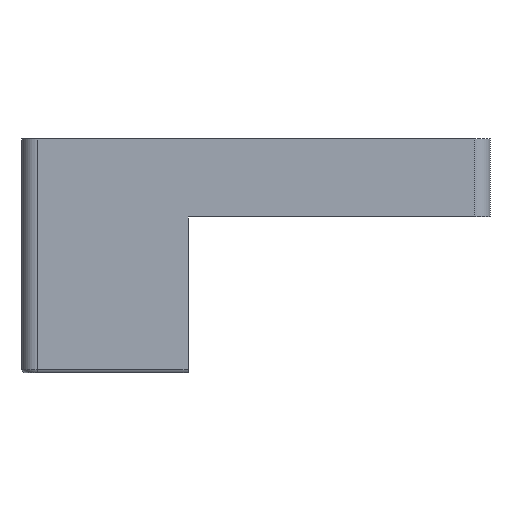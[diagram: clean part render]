
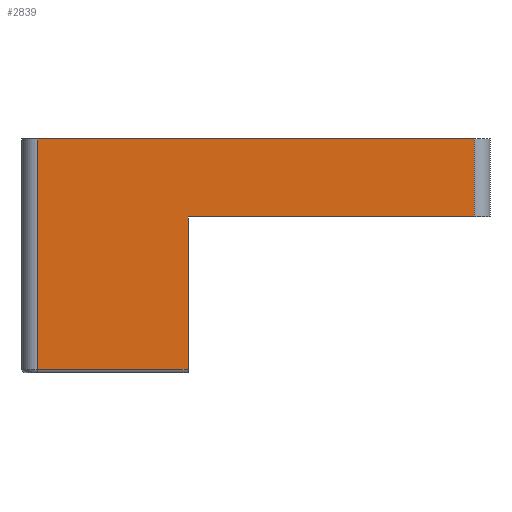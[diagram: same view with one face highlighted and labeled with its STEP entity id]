
A CAD part, front view. The second image highlights one B-rep face of the part: STEP entity #2839.
In plain terms, the highlighted planar face has unit normal (0, -1, 0).
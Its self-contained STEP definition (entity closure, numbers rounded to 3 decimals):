
#42=PLANE('',#3023);
#173=FACE_OUTER_BOUND('',#322,.T.);
#322=EDGE_LOOP('',(#2037,#2038,#2039,#2040,#2041,#2042));
#500=LINE('',#4064,#859);
#508=LINE('',#4087,#867);
#509=LINE('',#4091,#868);
#510=LINE('',#4093,#869);
#511=LINE('',#4095,#870);
#512=LINE('',#4096,#871);
#859=VECTOR('',#3274,10.);
#867=VECTOR('',#3298,10.);
#868=VECTOR('',#3303,10.);
#869=VECTOR('',#3304,10.);
#870=VECTOR('',#3305,10.);
#871=VECTOR('',#3306,10.);
#1281=VERTEX_POINT('',#4061);
#1282=VERTEX_POINT('',#4063);
#1289=VERTEX_POINT('',#4086);
#1290=VERTEX_POINT('',#4090);
#1291=VERTEX_POINT('',#4092);
#1292=VERTEX_POINT('',#4094);
#1572=EDGE_CURVE('',#1281,#1282,#500,.T.);
#1584=EDGE_CURVE('',#1282,#1289,#508,.T.);
#1586=EDGE_CURVE('',#1290,#1281,#509,.T.);
#1587=EDGE_CURVE('',#1291,#1290,#510,.T.);
#1588=EDGE_CURVE('',#1292,#1291,#511,.T.);
#1589=EDGE_CURVE('',#1289,#1292,#512,.T.);
#2037=ORIENTED_EDGE('',*,*,#1572,.F.);
#2038=ORIENTED_EDGE('',*,*,#1586,.F.);
#2039=ORIENTED_EDGE('',*,*,#1587,.F.);
#2040=ORIENTED_EDGE('',*,*,#1588,.F.);
#2041=ORIENTED_EDGE('',*,*,#1589,.F.);
#2042=ORIENTED_EDGE('',*,*,#1584,.F.);
#2839=ADVANCED_FACE('',(#173),#42,.T.);
#3023=AXIS2_PLACEMENT_3D('',#4089,#3301,#3302);
#3274=DIRECTION('',(-1.,0.,0.));
#3298=DIRECTION('',(0.,0.,1.));
#3301=DIRECTION('center_axis',(0.,-1.,0.));
#3302=DIRECTION('ref_axis',(-1.,0.,0.));
#3303=DIRECTION('',(0.,0.,-1.));
#3304=DIRECTION('',(-1.,0.,0.));
#3305=DIRECTION('',(0.,0.,-1.));
#3306=DIRECTION('',(1.,0.,0.));
#4061=CARTESIAN_POINT('',(21.284,-20.,-29.5));
#4063=CARTESIAN_POINT('',(2.,-20.,-29.5));
#4064=CARTESIAN_POINT('',(35.321,-20.,-29.5));
#4086=CARTESIAN_POINT('',(2.,-20.,0.));
#4087=CARTESIAN_POINT('',(2.,-20.,0.));
#4089=CARTESIAN_POINT('Origin',(60.,-20.,0.));
#4090=CARTESIAN_POINT('',(21.284,-20.,-10.));
#4091=CARTESIAN_POINT('',(21.284,-20.,-10.));
#4092=CARTESIAN_POINT('',(58.,-20.,-10.));
#4093=CARTESIAN_POINT('',(0.,-20.,-10.));
#4094=CARTESIAN_POINT('',(58.,-20.,0.));
#4095=CARTESIAN_POINT('',(58.,-20.,0.));
#4096=CARTESIAN_POINT('',(0.,-20.,0.));
